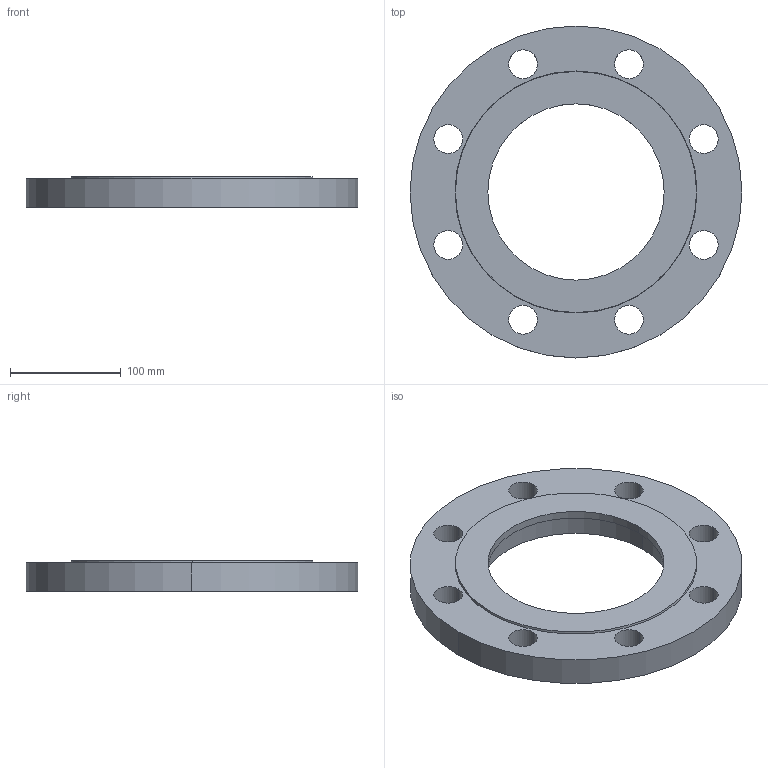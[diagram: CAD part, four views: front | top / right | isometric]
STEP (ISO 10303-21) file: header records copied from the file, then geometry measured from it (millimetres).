
FILE_DESCRIPTION (( 'STEP AP214' ), '1' );
FILE_NAME ('PN40 DN150 Type 05 - Socket (Type B) - Not in Standard.STEP', '2019-01-05T00:23:27', ( '' ), ( '' ), 'SwSTEP 2.0', 'SolidWorks 2019', '' );
FILE_SCHEMA (( 'AUTOMOTIVE_DESIGN' ));
Length unit declared in the file: millimetre
Products named in the file (1): PN40 DN150 Type 05 - Socket (Type B) - Not in Standard
Bounding box: 300 x 300 x 28 mm (x, y, z)
Volume: 1183310.1 mm3; surface area: 150412.5 mm2
Topology: 1 solids, 1 shells, 28 faces, 72 edges, 48 vertices
Faces by surface type: cylinder 22, plane 4, cone 2
Entity records: 954 total; most frequent: DIRECTION 178, CARTESIAN_POINT 149, ORIENTED_EDGE 144, AXIS2_PLACEMENT_3D 77, EDGE_CURVE 72, VERTEX_POINT 48, CIRCLE 48, EDGE_LOOP 48
